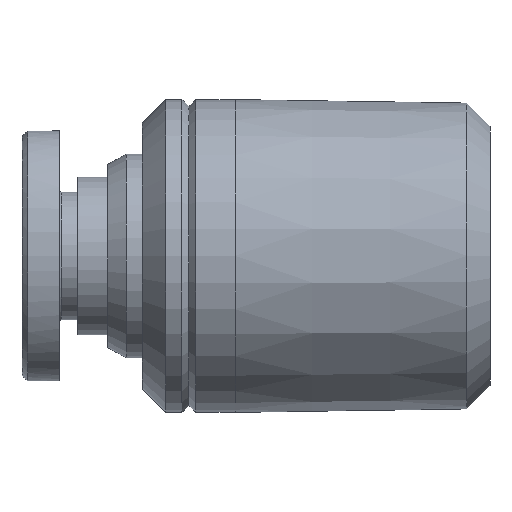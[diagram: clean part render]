
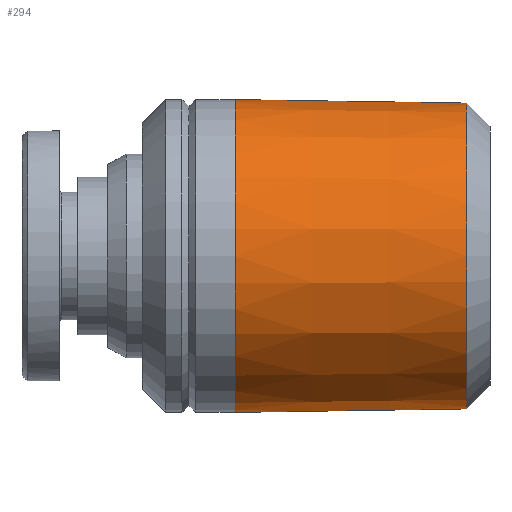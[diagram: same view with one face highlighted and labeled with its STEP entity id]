
A CAD part, top view. The second image highlights one B-rep face of the part: STEP entity #294.
In plain terms, the highlighted conical face has half-angle 0.857 degrees and reference radius 6.668 mm.
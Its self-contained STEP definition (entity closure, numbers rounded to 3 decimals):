
#220=CARTESIAN_POINT('',(5.5,6.75,0.0));
#221=VERTEX_POINT('',#220);
#222=CARTESIAN_POINT('',(5.5,0.,0.0));
#223=DIRECTION('',(1.0,0.0,0.0));
#224=DIRECTION('',(0.0,1.0,0.0));
#225=AXIS2_PLACEMENT_3D('',#222,#223,#224);
#226=CIRCLE('',#225,6.75);
#227=EDGE_CURVE('',#221,#221,#226,.T.);
#240=CARTESIAN_POINT('',(15.5,6.6,0.));
#241=VERTEX_POINT('',#240);
#242=CARTESIAN_POINT('',(15.5,0.0,0.));
#243=DIRECTION('',(1.0,0.0,0.0));
#244=DIRECTION('',(0.0,-1.0,0.0));
#245=AXIS2_PLACEMENT_3D('',#242,#243,#244);
#246=CIRCLE('',#245,6.6);
#247=EDGE_CURVE('',#241,#241,#246,.T.);
#283=CARTESIAN_POINT('',(11.0,0.,0.0));
#284=DIRECTION('',(-1.0,0.,0.0));
#285=DIRECTION('',(0.0,1.0,0.0));
#286=AXIS2_PLACEMENT_3D('',#283,#284,#285);
#287=CONICAL_SURFACE('',#286,6.668,0.857);
#288=ORIENTED_EDGE('',*,*,#227,.T.);
#289=EDGE_LOOP('',(#288));
#290=FACE_OUTER_BOUND('',#289,.T.);
#291=ORIENTED_EDGE('',*,*,#247,.F.);
#292=EDGE_LOOP('',(#291));
#293=FACE_BOUND('',#292,.T.);
#294=ADVANCED_FACE('',(#290,#293),#287,.T.);
